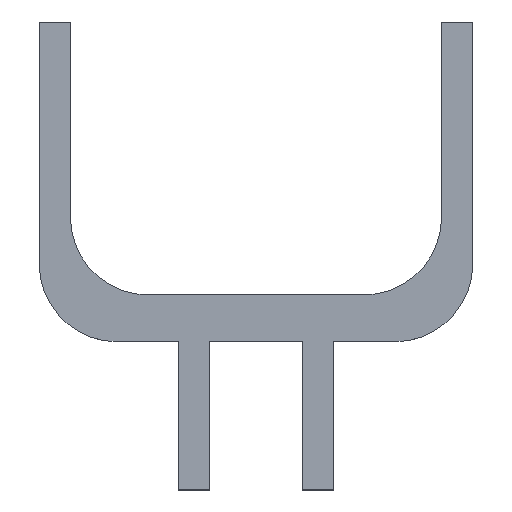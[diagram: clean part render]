
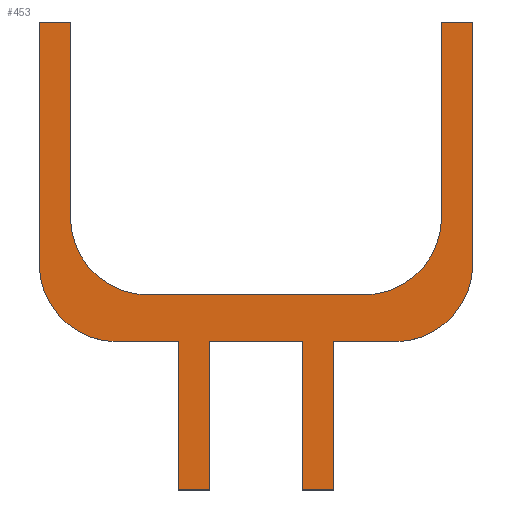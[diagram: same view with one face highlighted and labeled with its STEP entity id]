
A CAD part, top view. The second image highlights one B-rep face of the part: STEP entity #453.
In plain terms, the highlighted planar face has unit normal (0, 0, 1).
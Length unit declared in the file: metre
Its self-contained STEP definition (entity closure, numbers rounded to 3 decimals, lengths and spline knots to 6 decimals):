
#13=CIRCLE('',#473,0.01);
#15=CIRCLE('',#479,0.01);
#17=CIRCLE('',#491,0.01);
#19=CIRCLE('',#497,0.01);
#108=ORIENTED_EDGE('',*,*,#155,.F.);
#109=ORIENTED_EDGE('',*,*,#160,.T.);
#110=ORIENTED_EDGE('',*,*,#163,.T.);
#111=ORIENTED_EDGE('',*,*,#166,.T.);
#112=ORIENTED_EDGE('',*,*,#169,.T.);
#113=ORIENTED_EDGE('',*,*,#172,.F.);
#114=ORIENTED_EDGE('',*,*,#175,.T.);
#115=ORIENTED_EDGE('',*,*,#178,.T.);
#116=ORIENTED_EDGE('',*,*,#181,.T.);
#117=ORIENTED_EDGE('',*,*,#184,.F.);
#118=ORIENTED_EDGE('',*,*,#187,.T.);
#119=ORIENTED_EDGE('',*,*,#190,.T.);
#120=ORIENTED_EDGE('',*,*,#193,.T.);
#121=ORIENTED_EDGE('',*,*,#196,.F.);
#122=ORIENTED_EDGE('',*,*,#199,.F.);
#123=ORIENTED_EDGE('',*,*,#202,.T.);
#124=ORIENTED_EDGE('',*,*,#205,.F.);
#125=ORIENTED_EDGE('',*,*,#208,.F.);
#126=ORIENTED_EDGE('',*,*,#211,.F.);
#127=ORIENTED_EDGE('',*,*,#213,.F.);
#155=EDGE_CURVE('',#218,#219,#260,.T.);
#160=EDGE_CURVE('',#218,#222,#13,.T.);
#163=EDGE_CURVE('',#222,#224,#266,.T.);
#166=EDGE_CURVE('',#224,#226,#269,.T.);
#169=EDGE_CURVE('',#226,#228,#272,.T.);
#172=EDGE_CURVE('',#230,#228,#15,.T.);
#175=EDGE_CURVE('',#230,#232,#276,.T.);
#178=EDGE_CURVE('',#232,#234,#279,.T.);
#181=EDGE_CURVE('',#234,#236,#282,.T.);
#184=EDGE_CURVE('',#238,#236,#285,.T.);
#187=EDGE_CURVE('',#238,#240,#288,.T.);
#190=EDGE_CURVE('',#240,#242,#291,.T.);
#193=EDGE_CURVE('',#242,#244,#294,.T.);
#196=EDGE_CURVE('',#246,#244,#297,.T.);
#199=EDGE_CURVE('',#248,#246,#300,.T.);
#202=EDGE_CURVE('',#248,#250,#17,.T.);
#205=EDGE_CURVE('',#252,#250,#304,.T.);
#208=EDGE_CURVE('',#254,#252,#307,.T.);
#211=EDGE_CURVE('',#256,#254,#310,.T.);
#213=EDGE_CURVE('',#219,#256,#19,.T.);
#218=VERTEX_POINT('',#633);
#219=VERTEX_POINT('',#635);
#222=VERTEX_POINT('',#643);
#224=VERTEX_POINT('',#649);
#226=VERTEX_POINT('',#655);
#228=VERTEX_POINT('',#661);
#230=VERTEX_POINT('',#667);
#232=VERTEX_POINT('',#673);
#234=VERTEX_POINT('',#679);
#236=VERTEX_POINT('',#685);
#238=VERTEX_POINT('',#691);
#240=VERTEX_POINT('',#697);
#242=VERTEX_POINT('',#703);
#244=VERTEX_POINT('',#709);
#246=VERTEX_POINT('',#715);
#248=VERTEX_POINT('',#721);
#250=VERTEX_POINT('',#727);
#252=VERTEX_POINT('',#733);
#254=VERTEX_POINT('',#739);
#256=VERTEX_POINT('',#745);
#260=LINE('',#634,#313);
#266=LINE('',#650,#319);
#269=LINE('',#656,#322);
#272=LINE('',#662,#325);
#276=LINE('',#674,#329);
#279=LINE('',#680,#332);
#282=LINE('',#686,#335);
#285=LINE('',#692,#338);
#288=LINE('',#698,#341);
#291=LINE('',#704,#344);
#294=LINE('',#710,#347);
#297=LINE('',#716,#350);
#300=LINE('',#722,#353);
#304=LINE('',#734,#357);
#307=LINE('',#740,#360);
#310=LINE('',#746,#363);
#313=VECTOR('',#510,1.);
#319=VECTOR('',#524,1.);
#322=VECTOR('',#529,1.);
#325=VECTOR('',#534,1.);
#329=VECTOR('',#546,1.);
#332=VECTOR('',#551,1.);
#335=VECTOR('',#556,1.);
#338=VECTOR('',#561,1.);
#341=VECTOR('',#566,1.);
#344=VECTOR('',#571,1.);
#347=VECTOR('',#576,1.);
#350=VECTOR('',#581,1.);
#353=VECTOR('',#586,1.);
#357=VECTOR('',#598,1.);
#360=VECTOR('',#603,1.);
#363=VECTOR('',#608,1.);
#384=EDGE_LOOP('',(#108,#109,#110,#111,#112,#113,#114,#115,#116,#117,#118,
#119,#120,#121,#122,#123,#124,#125,#126,#127));
#409=FACE_BOUND('',#384,.T.);
#430=PLANE('',#498);
#453=ADVANCED_FACE('',(#409),#430,.T.);
#473=AXIS2_PLACEMENT_3D('',#644,#518,#519);
#479=AXIS2_PLACEMENT_3D('',#668,#540,#541);
#491=AXIS2_PLACEMENT_3D('',#728,#592,#593);
#497=AXIS2_PLACEMENT_3D('',#749,#613,#614);
#498=AXIS2_PLACEMENT_3D('',#750,#615,#616);
#510=DIRECTION('',(1.,0.,0.));
#518=DIRECTION('',(0.,0.,-1.));
#519=DIRECTION('',(1.,0.,0.));
#524=DIRECTION('',(0.,1.,0.));
#529=DIRECTION('',(-1.,0.,0.));
#534=DIRECTION('',(0.,-1.,0.));
#540=DIRECTION('',(0.,0.,-1.));
#541=DIRECTION('',(1.,0.,0.));
#546=DIRECTION('',(1.,0.,0.));
#551=DIRECTION('',(0.,-1.,0.));
#556=DIRECTION('',(1.,0.,0.));
#561=DIRECTION('',(0.,-1.,0.));
#566=DIRECTION('',(1.,0.,0.));
#571=DIRECTION('',(0.,-1.,0.));
#576=DIRECTION('',(1.,0.,0.));
#581=DIRECTION('',(0.,-1.,0.));
#586=DIRECTION('',(-1.,0.,0.));
#592=DIRECTION('',(0.,0.,1.));
#593=DIRECTION('',(1.,0.,0.));
#598=DIRECTION('',(0.,-1.,0.));
#603=DIRECTION('',(1.,0.,0.));
#608=DIRECTION('',(0.,1.,0.));
#613=DIRECTION('',(0.,0.,1.));
#614=DIRECTION('',(1.,0.,0.));
#615=DIRECTION('',(0.,0.,1.));
#616=DIRECTION('',(1.,0.,0.));
#633=CARTESIAN_POINT('',(-0.0138,-0.015,0.047));
#634=CARTESIAN_POINT('',(0.0069,-0.015,0.047));
#635=CARTESIAN_POINT('',(0.0138,-0.015,0.047));
#643=CARTESIAN_POINT('',(-0.0238,-0.005,0.047));
#644=CARTESIAN_POINT('',(-0.0138,-0.005,0.047));
#649=CARTESIAN_POINT('',(-0.0238,0.02,0.047));
#650=CARTESIAN_POINT('',(-0.0238,0.0075,0.047));
#655=CARTESIAN_POINT('',(-0.0278,0.02,0.047));
#656=CARTESIAN_POINT('',(-0.0258,0.02,0.047));
#661=CARTESIAN_POINT('',(-0.0278,-0.011,0.047));
#662=CARTESIAN_POINT('',(-0.0278,0.0045,0.047));
#667=CARTESIAN_POINT('',(-0.0178,-0.021,0.047));
#668=CARTESIAN_POINT('',(-0.0178,-0.011,0.047));
#673=CARTESIAN_POINT('',(-0.009972,-0.021,0.047));
#674=CARTESIAN_POINT('',(-0.013886,-0.021,0.047));
#679=CARTESIAN_POINT('',(-0.009972,-0.04,0.047));
#680=CARTESIAN_POINT('',(-0.009972,-0.0305,0.047));
#685=CARTESIAN_POINT('',(-0.005972,-0.04,0.047));
#686=CARTESIAN_POINT('',(-0.007972,-0.04,0.047));
#691=CARTESIAN_POINT('',(-0.005972,-0.021,0.047));
#692=CARTESIAN_POINT('',(-0.005972,-0.0305,0.047));
#697=CARTESIAN_POINT('',(0.005972,-0.021,0.047));
#698=CARTESIAN_POINT('',(-0.002986,-0.021,0.047));
#703=CARTESIAN_POINT('',(0.005972,-0.04,0.047));
#704=CARTESIAN_POINT('',(0.005972,-0.0305,0.047));
#709=CARTESIAN_POINT('',(0.009972,-0.04,0.047));
#710=CARTESIAN_POINT('',(0.007972,-0.04,0.047));
#715=CARTESIAN_POINT('',(0.009972,-0.021,0.047));
#716=CARTESIAN_POINT('',(0.009972,-0.0305,0.047));
#721=CARTESIAN_POINT('',(0.0178,-0.021,0.047));
#722=CARTESIAN_POINT('',(0.013886,-0.021,0.047));
#727=CARTESIAN_POINT('',(0.0278,-0.011,0.047));
#728=CARTESIAN_POINT('',(0.0178,-0.011,0.047));
#733=CARTESIAN_POINT('',(0.0278,0.02,0.047));
#734=CARTESIAN_POINT('',(0.0278,0.0045,0.047));
#739=CARTESIAN_POINT('',(0.0238,0.02,0.047));
#740=CARTESIAN_POINT('',(0.0258,0.02,0.047));
#745=CARTESIAN_POINT('',(0.0238,-0.005,0.047));
#746=CARTESIAN_POINT('',(0.0238,0.0075,0.047));
#749=CARTESIAN_POINT('',(0.0138,-0.005,0.047));
#750=CARTESIAN_POINT('',(0.,-0.012154,0.047));
